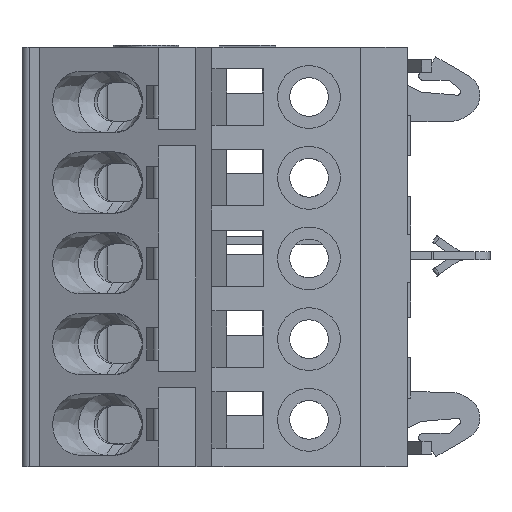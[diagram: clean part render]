
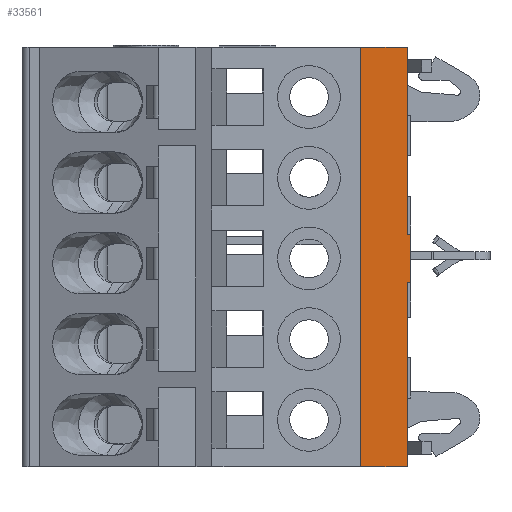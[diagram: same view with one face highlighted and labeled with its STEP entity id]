
A CAD part, left-side view. The second image highlights one B-rep face of the part: STEP entity #33561.
In plain terms, the highlighted planar face has unit normal (-1, 0, 0).
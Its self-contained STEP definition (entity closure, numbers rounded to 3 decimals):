
#20936=CARTESIAN_POINT(' ',(-15.5,2.9,0.));
#20937=VERTEX_POINT(' ',#20936);
#20951=CARTESIAN_POINT(' ',(-15.5,2.9,0.));
#20956=DIRECTION(' ',(0.,-1.,0.));
#20961=VECTOR(' ',#20956,1.);
#20966=LINE('',#20951,#20961);
#20971=CARTESIAN_POINT(' ',(-15.5,0.,0.));
#20972=VERTEX_POINT(' ',#20971);
#20976=EDGE_CURVE(' ',#20937,#20972,#20966,.T.);
#33251=CARTESIAN_POINT(' ',(-15.5,2.9,-26.));
#33252=VERTEX_POINT(' ',#33251);
#33266=CARTESIAN_POINT(' ',(-15.5,2.9,-26.));
#33271=DIRECTION(' ',(0.,0.,1.));
#33276=VECTOR(' ',#33271,1.);
#33281=LINE('',#33266,#33276);
#33286=EDGE_CURVE(' ',#33252,#20937,#33281,.T.);
#33311=DIRECTION(' ',(-1.,0.,0.));
#33316=CARTESIAN_POINT(' ',(-15.5,-0.2,-26.));
#33321=DIRECTION(' ',(0.,-0.,1.));
#33326=AXIS2_PLACEMENT_3D(' ',#33316,#33311,#33321);
#33331=PLANE('',#33326);
#33336=ORIENTED_EDGE(' ',*,*,#20976,.F.);
#33341=ORIENTED_EDGE(' ',*,*,#33286,.F.);
#33346=CARTESIAN_POINT(' ',(-15.5,2.9,-26.));
#33351=DIRECTION(' ',(0.,-1.,0.));
#33356=VECTOR(' ',#33351,1.);
#33361=LINE('',#33346,#33356);
#33366=CARTESIAN_POINT(' ',(-15.5,0.,-26.));
#33367=VERTEX_POINT(' ',#33366);
#33371=EDGE_CURVE(' ',#33252,#33367,#33361,.T.);
#33376=ORIENTED_EDGE(' ',*,*,#33371,.T.);
#33381=CARTESIAN_POINT(' ',(-15.5,0.,-26.));
#33386=DIRECTION(' ',(0.,0.,1.));
#33391=VECTOR(' ',#33386,1.);
#33396=LINE('',#33381,#33391);
#33401=CARTESIAN_POINT(' ',(-15.5,0.,-14.6));
#33402=VERTEX_POINT(' ',#33401);
#33406=EDGE_CURVE(' ',#33367,#33402,#33396,.T.);
#33411=ORIENTED_EDGE(' ',*,*,#33406,.T.);
#33416=CARTESIAN_POINT(' ',(-15.5,-0.2,-14.6));
#33421=DIRECTION(' ',(0.,1.,0.));
#33426=VECTOR(' ',#33421,1.);
#33431=LINE('',#33416,#33426);
#33436=CARTESIAN_POINT(' ',(-15.5,-0.2,-14.6));
#33437=VERTEX_POINT(' ',#33436);
#33441=EDGE_CURVE(' ',#33437,#33402,#33431,.T.);
#33446=ORIENTED_EDGE(' ',*,*,#33441,.F.);
#33451=CARTESIAN_POINT(' ',(-15.5,-0.2,-11.6));
#33456=DIRECTION(' ',(0.,0.,-1.));
#33461=VECTOR(' ',#33456,1.);
#33466=LINE('',#33451,#33461);
#33471=CARTESIAN_POINT(' ',(-15.5,-0.2,-11.6));
#33472=VERTEX_POINT(' ',#33471);
#33476=EDGE_CURVE(' ',#33472,#33437,#33466,.T.);
#33481=ORIENTED_EDGE(' ',*,*,#33476,.F.);
#33486=CARTESIAN_POINT(' ',(-15.5,-0.2,-11.6));
#33491=DIRECTION(' ',(0.,1.,0.));
#33496=VECTOR(' ',#33491,1.);
#33501=LINE('',#33486,#33496);
#33506=CARTESIAN_POINT(' ',(-15.5,0.,-11.6));
#33507=VERTEX_POINT(' ',#33506);
#33511=EDGE_CURVE(' ',#33472,#33507,#33501,.T.);
#33516=ORIENTED_EDGE(' ',*,*,#33511,.T.);
#33521=CARTESIAN_POINT(' ',(-15.5,0.,-11.6));
#33526=DIRECTION(' ',(0.,0.,1.));
#33531=VECTOR(' ',#33526,1.);
#33536=LINE('',#33521,#33531);
#33541=EDGE_CURVE(' ',#33507,#20972,#33536,.T.);
#33546=ORIENTED_EDGE(' ',*,*,#33541,.T.);
#33551=EDGE_LOOP(' ',(#33336,#33341,#33376,#33411,#33446,#33481,#33516,#33546));
#33556=FACE_OUTER_BOUND(' ',#33551,.T.);
#33561=ADVANCED_FACE('',(#33556),#33331,.T.);
